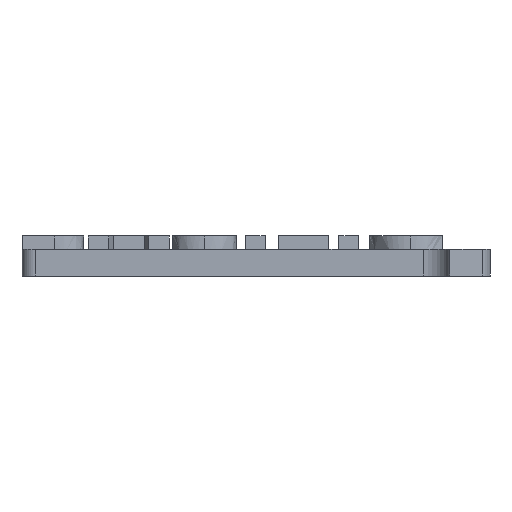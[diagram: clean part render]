
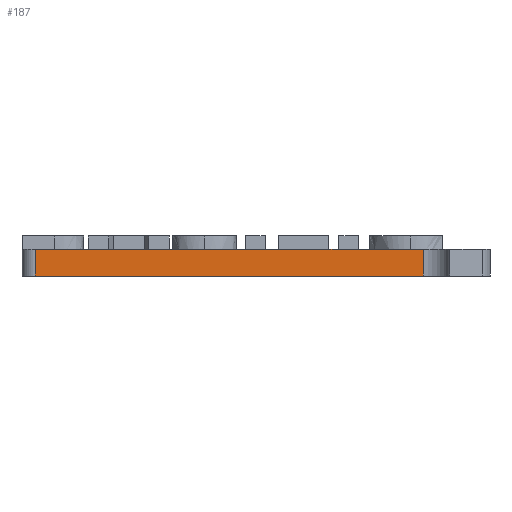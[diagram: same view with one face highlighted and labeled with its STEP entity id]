
A CAD part, front view. The second image highlights one B-rep face of the part: STEP entity #187.
In plain terms, the highlighted planar face has unit normal (0, -1, 0).
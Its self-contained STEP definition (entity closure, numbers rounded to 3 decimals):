
#187=ADVANCED_FACE('',(#423),#424,.T.);
#423=FACE_OUTER_BOUND('',#716,.T.);
#424=PLANE('',#717);
#716=EDGE_LOOP('',(#1303,#1304,#1305,#1306));
#717=AXIS2_PLACEMENT_3D('',#1307,#1308,#1309);
#1303=ORIENTED_EDGE('',*,*,#2081,.T.);
#1304=ORIENTED_EDGE('',*,*,#2154,.T.);
#1305=ORIENTED_EDGE('',*,*,#2141,.F.);
#1306=ORIENTED_EDGE('',*,*,#2155,.T.);
#1307=CARTESIAN_POINT('',(-19.0,-3.0,0.0));
#1308=DIRECTION('',(0.,-1.0,0.0));
#1309=DIRECTION('',(1.0,0.,0.0));
#2081=EDGE_CURVE('',#2531,#2529,#2532,.T.);
#2141=EDGE_CURVE('',#2641,#2643,#2644,.T.);
#2154=EDGE_CURVE('',#2529,#2643,#2665,.T.);
#2155=EDGE_CURVE('',#2641,#2531,#2666,.F.);
#2529=VERTEX_POINT('',#3261);
#2531=VERTEX_POINT('',#3263);
#2532=LINE('',#3264,#3265);
#2641=VERTEX_POINT('',#3490);
#2643=VERTEX_POINT('',#3492);
#2644=LINE('',#3493,#3494);
#2665=LINE('',#3524,#3525);
#2666=LINE('',#3526,#3527);
#3261=CARTESIAN_POINT('',(-5.0,-3.0,0.0));
#3263=CARTESIAN_POINT('',(-34.0,-3.0,0.0));
#3264=CARTESIAN_POINT('',(-19.0,-3.0,0.0));
#3265=VECTOR('',#3965,1.0);
#3490=CARTESIAN_POINT('',(-34.0,-3.0,2.0));
#3492=CARTESIAN_POINT('',(-5.0,-3.0,2.0));
#3493=CARTESIAN_POINT('',(-19.0,-3.0,2.0));
#3494=VECTOR('',#4008,1.0);
#3524=CARTESIAN_POINT('',(-5.0,-3.0,2.0));
#3525=VECTOR('',#4023,1.0);
#3526=CARTESIAN_POINT('',(-34.0,-3.0,0.0));
#3527=VECTOR('',#4024,1.0);
#3965=DIRECTION('',(1.0,0.,0.0));
#4008=DIRECTION('',(1.0,0.,0.0));
#4023=DIRECTION('',(0.0,0.0,1.0));
#4024=DIRECTION('',(0.0,0.0,1.0));
